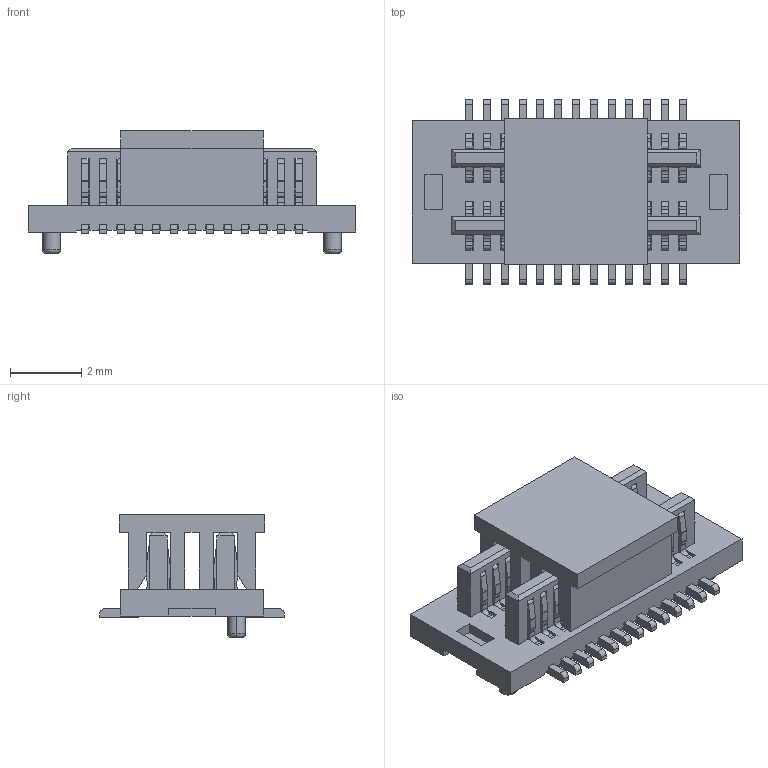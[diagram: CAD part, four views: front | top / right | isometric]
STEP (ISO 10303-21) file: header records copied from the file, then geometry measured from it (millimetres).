
FILE_DESCRIPTION(('CATIA V5 STEP Exchange'),'2;1');
FILE_NAME('F:\黄富鸿\板对板\PBB05\公座\H0.8\编带+盖\HC-PBB05-2-26-M-H0.8-G1-R-P-04（BTB0.5 双槽 公座 立贴 带柱 编带+盖）-HCTL.stp','2025-12-16T06:59:51+00:00',('none'),('none'),'CATIA Version 5 Release 20 GA (IN-10)','CATIA V5 STEP AP203','none');
FILE_SCHEMA(('CONFIG_CONTROL_DESIGN'));
Length unit declared in the file: millimetre
Products named in the file (1): Part2
Bounding box: 9.2 x 5.2 x 3.45 mm (x, y, z)
Volume: 56.8 mm3; surface area: 449.1 mm2
Topology: 28 solids, 28 shells, 1536 faces, 4670 edges, 3092 vertices
Faces by surface type: plane 1008, cylinder 524, torus 4
Entity records: 45187 total; most frequent: ORIENTED_EDGE 9340, CARTESIAN_POINT 8372, DIRECTION 5160, EDGE_CURVE 4670, VECTOR 3510, LINE 3510, VERTEX_POINT 3092, EDGE_LOOP 1542
